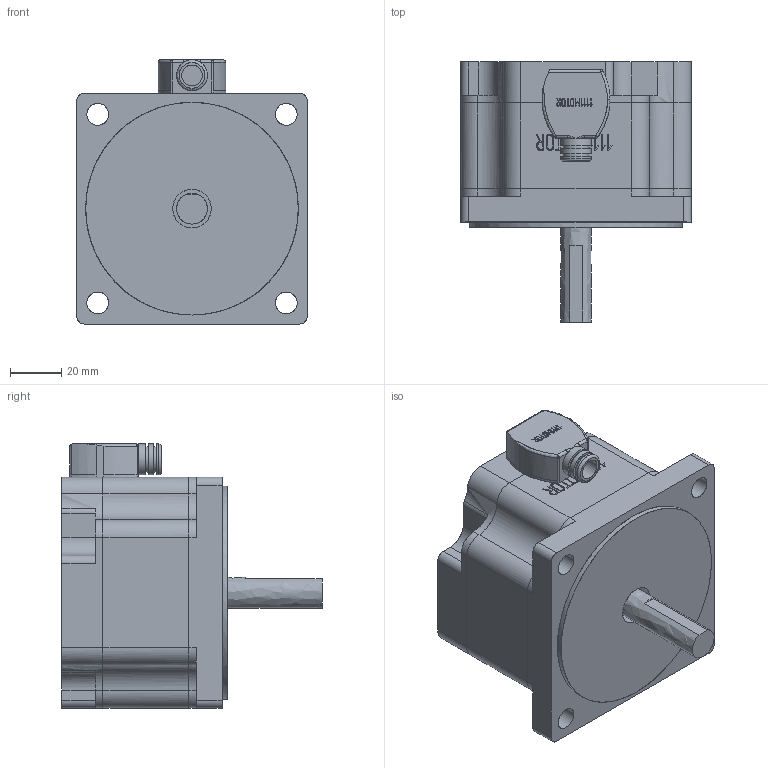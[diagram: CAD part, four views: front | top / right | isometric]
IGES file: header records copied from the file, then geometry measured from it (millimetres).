
Start section: C
Global section: file name: BL90S.igs; native system: By Siemens PLM Incorporated; preprocessor: XPlus GENERIC/IGES 17.0.49; author: Author; organization: Title; date: 20170219.230410; units: millimetre
Bounding box: 90 x 101.5 x 103 mm (x, y, z)
Surface area: 75747.5 mm2 (no closed solid volume)
Topology: 0 solids, 0 shells, 315 faces, 1986 edges, 1981 vertices
Faces by surface type: bspline 315
